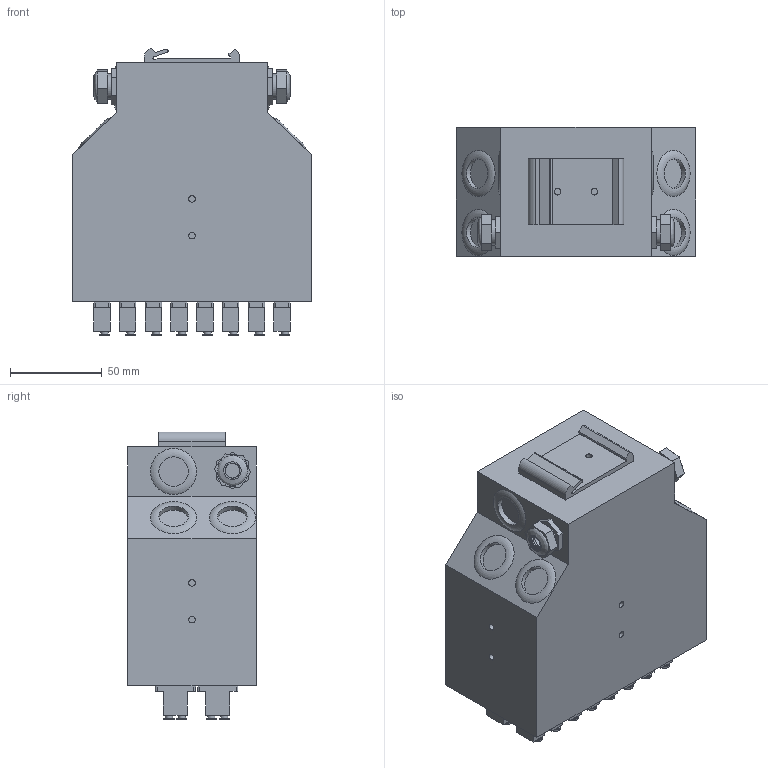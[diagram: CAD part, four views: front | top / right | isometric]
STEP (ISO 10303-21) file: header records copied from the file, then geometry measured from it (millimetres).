
FILE_DESCRIPTION(('TFLEX Exchange Step'),'2;1');
FILE_NAME('STK-OK-01-16LCD.stp', '2025-02-06T14:36:40+03:00',('Yuriy Romanov'),('Unknown organisation'),'TFLEX Exchange 2023.2','T-FLEX CAD','Unknown authorisation');
FILE_SCHEMA( ('AUTOMOTIVE_DESIGN { 1 0 10303 214 1 1 1 1 }') );
Length unit declared in the file: millimetre
Products named in the file (1): STK-OK-01-16LCD
Bounding box: 130 x 70 x 156.5 mm (x, y, z)
Volume: 1089882.6 mm3; surface area: 110604.7 mm2
Topology: 30 solids, 30 shells, 1230 faces, 3164 edges, 2133 vertices
Faces by surface type: plane 609, cylinder 368, cone 126, bspline 121, torus 6
Full cylindrical faces by diameter (mm): 3 x32, 3.5 x8, 4 x32, 5.5 x32, 8.05 x2, 8.823 x2, 9.2 x2, 11.932 x2, 12.555 x2, 13.8 x4, 16 x6, 20 x12
Entity records: 45271 total; most frequent: CARTESIAN_POINT 15438, ORIENTED_EDGE 6328, DIRECTION 6008, EDGE_CURVE 3164, AXIS2_PLACEMENT_3D 2337, VERTEX_POINT 2133, EDGE_LOOP 1385, FACE_BOUND 1385
